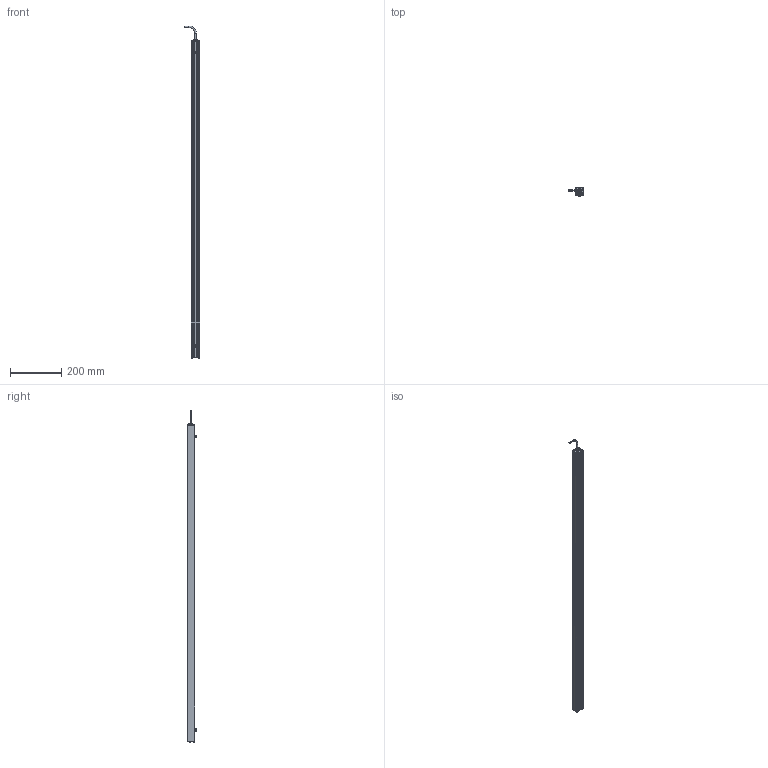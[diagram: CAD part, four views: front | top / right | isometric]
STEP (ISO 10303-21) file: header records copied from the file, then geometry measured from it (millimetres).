
FILE_DESCRIPTION (( 'STEP AP214' ), '1' );
FILE_NAME ('AL150XXXX_AL150282.stp', '2021-04-29T15:41:36', ( '' ), ( '' ), 'SwSTEP 2.0', 'SolidWorks 2018', '' );
FILE_SCHEMA (( 'AUTOMOTIVE_DESIGN' ));
Length unit declared in the file: inch
Products named in the file (12): Part1^AL150XXXX; 150-03-006-XXXX_150-03-006-282; 093145_93701A253; Part2^AL150XXXX; 150-01-005-XXX_150-01-005-282; AL150XXXX_AL150282; HN-M6_90592A016; CHM6x8_91460A312; 1157 (no strap); 092408_TRUNCATED; 116-02-007; 116-02-006
Assembly tree (18 placements, depth 2):
  Part1^AL150XXXX
  Part2^AL150XXXX
  AL150XXXX_AL150282
    150-01-005-XXX_150-01-005-282
    116-02-006
    093145_93701A253  x8
    HN-M6_90592A016  x2
    CHM6x8_91460A312  x2
    150-03-006-XXXX_150-03-006-282
    116-02-007
    1157 (no strap)
    092408_TRUNCATED
Bounding box: 60.68 x 33.84 x 1293.42 mm (x, y, z)
Volume: 384352.1 mm3; surface area: 407134.6 mm2
Topology: 26 solids, 26 shells, 1306 faces, 3436 edges, 2127 vertices
Faces by surface type: cylinder 805, cone 249, plane 153, torus 59, bspline 32, sphere 8
Entity records: 18285 total; most frequent: CARTESIAN_POINT 6069, ORIENTED_EDGE 2496, DIRECTION 2311, EDGE_CURVE 1248, AXIS2_PLACEMENT_3D 881, VERTEX_POINT 800, LINE 549, VECTOR 549
